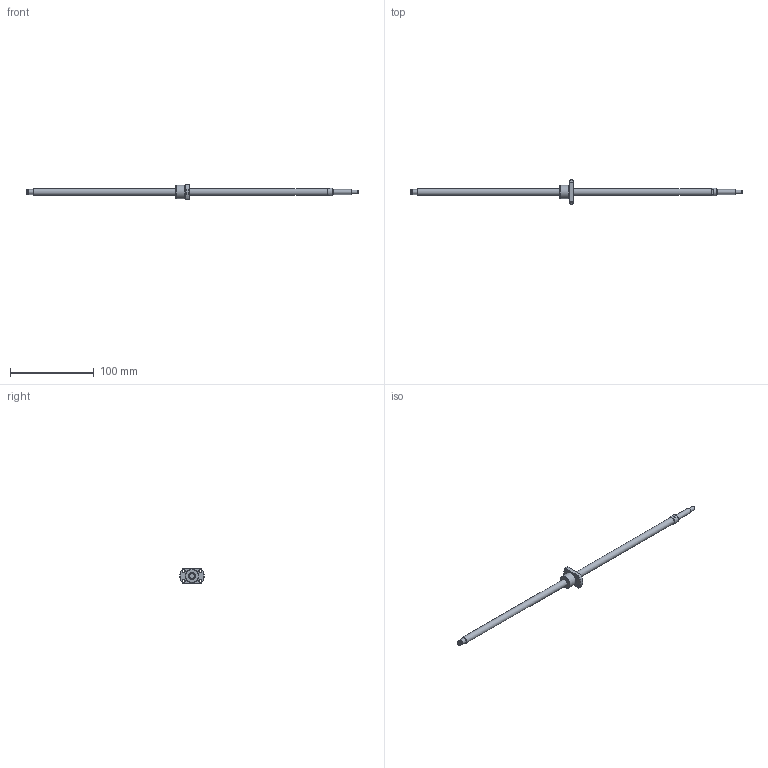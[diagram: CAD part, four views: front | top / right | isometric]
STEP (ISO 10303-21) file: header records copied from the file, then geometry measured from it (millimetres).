
FILE_DESCRIPTION(/* description */ ('STEP AP214'),/* implementation_level */ '2;1');
FILE_NAME(/* name */ 'SRT0802.5-347R397C7B0X(170Processing)',/* time_stamp */ '2026-08-04T19:59:59+02:00',/* author */ ('License CC BY-ND 4.0'),/* organization */ ('CADENAS'),/* preprocessor_version */ 'ST-DEVELOPER v20',/* originating_system */ 'PARTsolutions',/* authorisation */ ' ');
FILE_SCHEMA (('AUTOMOTIVE_DESIGN {1 0 10303 214 3 1 1}'));
Length unit declared in the file: millimetre
Products named in the file (3): SRT0802.5-347R397C7B0X(170Processing); SRT0802.5-347R430BCt7Processing38Shaft; SRT0802.5Nut
Assembly tree (2 placements, depth 2):
  SRT0802.5-347R397C7B0X(170Processing)
    SRT0802.5-347R430BCt7Processing38Shaft
    SRT0802.5Nut
Bounding box: 397 x 29 x 18 mm (x, y, z)
Volume: 22508 mm3; surface area: 12146.3 mm2
Topology: 2 solids, 2 shells, 44 faces, 95 edges, 62 vertices
Faces by surface type: plane 19, cylinder 16, cone 8, torus 1
Full cylindrical faces by diameter (mm): 3.4 x4, 4.5 x1, 5.7 x1, 6 x3, 8 x2, 9.5 x1, 15.7 x1, 16 x1
Entity records: 1175 total; most frequent: DIRECTION 202, CARTESIAN_POINT 199, ORIENTED_EDGE 142, AXIS2_PLACEMENT_3D 92, EDGE_LOOP 80, FACE_BOUND 80, EDGE_CURVE 71, VERTEX_POINT 57
